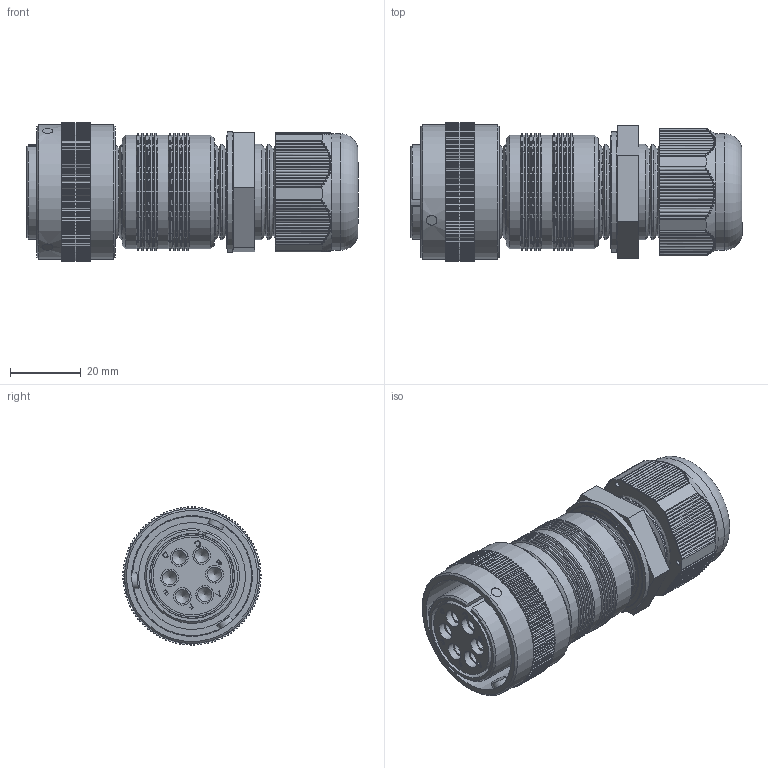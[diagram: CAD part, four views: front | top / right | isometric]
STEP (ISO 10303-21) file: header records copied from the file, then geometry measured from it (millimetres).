
FILE_DESCRIPTION (( 'STEP AP214' ), '1' );
FILE_NAME ('PLT3106A 20-15SC.STEP', '2025-12-17T07:33:58', ( '' ), ( '' ), 'SwSTEP 2.0', 'SolidWorks 2021', '' );
FILE_SCHEMA (( 'AUTOMOTIVE_DESIGN' ));
Length unit declared in the file: millimetre
Products named in the file (1): PLT3106A 20-15SC
Bounding box: 93.61 x 39 x 39 mm (x, y, z)
Volume: 47444.4 mm3; surface area: 53005.4 mm2
Topology: 21 solids, 21 shells, 1338 faces, 3464 edges, 2241 vertices
Faces by surface type: plane 705, cylinder 445, cone 104, bspline 54, torus 30
Full cylindrical faces by diameter (mm): 1.5 x3, 2.95 x6, 3 x6, 4 x24, 4.5 x3, 5 x24, 16.5 x1, 18.5 x2, 20.5 x4, 20.75 x3, 21 x1, 22 x1, 23 x2, 24 x2, 24.835 x14, 24.84 x16, 25.6 x2, 26 x2, 26.995 x6, 27 x24, 27.035 x1, 28.2 x2, 28.6 x3, 29 x1, 30 x1, 30.1 x1, 30.8 x1, 31.4 x2, 31.8 x2, 32 x11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
Entity records: 59622 total; most frequent: CARTESIAN_POINT 13594, ORIENTED_EDGE 6230, DIRECTION 6196, EDGE_CURVE 3115, VERTEX_POINT 2188, AXIS2_PLACEMENT_3D 2178, VECTOR 1840, LINE 1840
